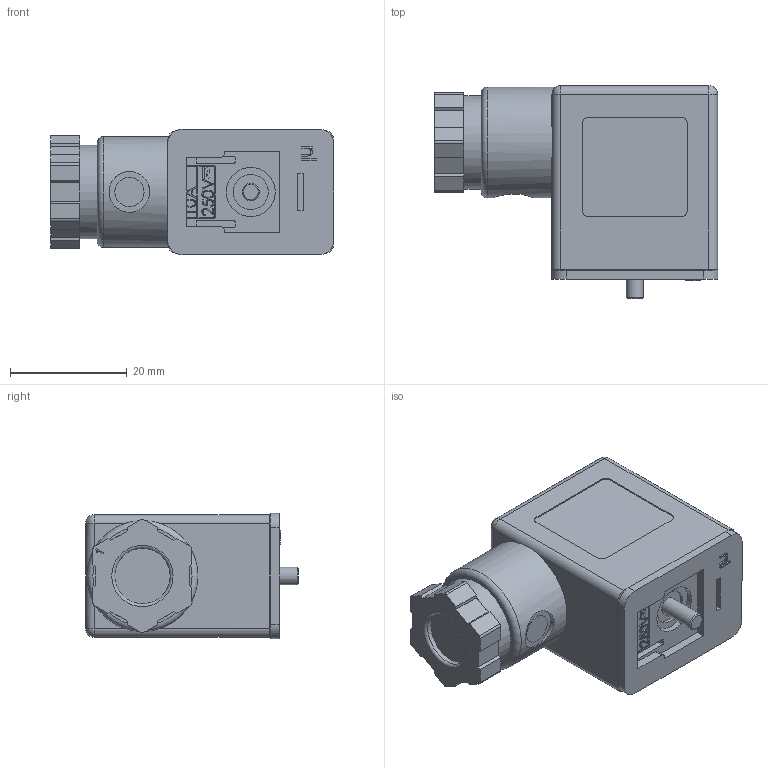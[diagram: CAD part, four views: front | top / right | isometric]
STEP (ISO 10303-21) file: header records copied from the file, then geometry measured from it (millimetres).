
FILE_DESCRIPTION(/* description */ (''),/* implementation_level */ '2;1');
FILE_NAME(/* name */ '612-201-0108_15-02-2019.stp',/* time_stamp */ '2019-02-15T08:24:12+01:00',/* author */ (''),/* organization */ (''),/* preprocessor_version */ 'ST-DEVELOPER v16',/* originating_system */ 'SIEMENS PLM Software NX 10.0',/* authorisation */ '');
FILE_SCHEMA (('AUTOMOTIVE_DESIGN { 1 0 10303 214 3 1 1 1 }'));
Length unit declared in the file: millimetre
Products named in the file (1): t.he3060D6ADyeer
Bounding box: 48.65 x 36.5 x 21.5 mm (x, y, z)
Volume: 23908.1 mm3; surface area: 6916.4 mm2
Topology: 1 solids, 1 shells, 387 faces, 1005 edges, 660 vertices
Faces by surface type: plane 261, cylinder 71, bspline 46, sphere 6, torus 2, cone 1
Full cylindrical faces by diameter (mm): 1.5 x1, 3 x1, 5 x1, 6 x1, 7 x1, 7.2 x1, 8.4 x1, 9.5 x1, 16 x1, 19 x1
Entity records: 14651 total; most frequent: CARTESIAN_POINT 5395, ORIENTED_EDGE 1966, DIRECTION 1738, EDGE_CURVE 983, LINE 720, VECTOR 720, VERTEX_POINT 655, AXIS2_PLACEMENT_3D 509
